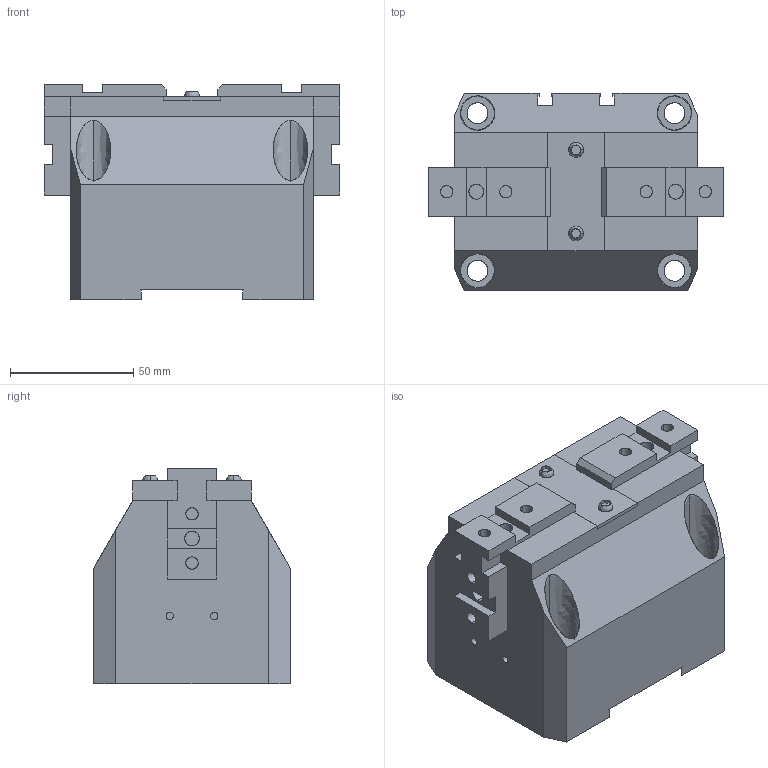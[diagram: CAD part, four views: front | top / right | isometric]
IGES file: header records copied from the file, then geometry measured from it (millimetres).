
Global section: file name: C:\Documents and Settings\Administrateur\Mes documents\OPE-100-X-OPEN.igs; native system: AutoCAD-16.0s (LMS Tech) (Microsoft Windows NT Version 5.1 (x86)); preprocessor: Autodesk IGES Translator Mechanical Desktop.R7.0.43.0 (Mar 18 2003) from Autodesk, Inc.; date: 20050629.103946; units: millimetre
Bounding box: 120 x 80 x 87.5 mm (x, y, z)
Surface area: 86258.7 mm2 (no closed solid volume)
Topology: 0 solids, 0 shells, 225 faces, 2116 edges, 2202 vertices
Faces by surface type: bspline 225
